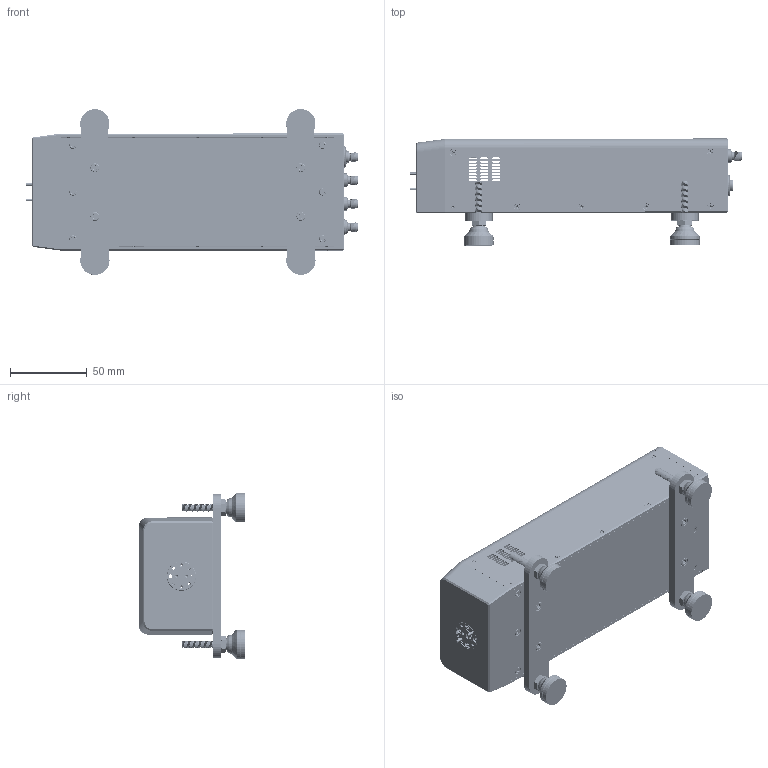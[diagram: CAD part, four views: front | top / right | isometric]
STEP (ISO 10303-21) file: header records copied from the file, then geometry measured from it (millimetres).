
FILE_DESCRIPTION (( 'STEP AP214' ), '1' );
FILE_NAME ('TO-SV-A-2.STEP', '2025-07-09T21:40:40', ( '' ), ( '' ), 'SwSTEP 2.0', 'SolidWorks 2021', '' );
FILE_SCHEMA (( 'AUTOMOTIVE_DESIGN' ));
Length unit declared in the file: inch
Products named in the file (1): TO-SV-A-2
Bounding box: 216.15 x 69.59 x 108.03 mm (x, y, z)
Volume: 234630.7 mm3; surface area: 160125.8 mm2
Topology: 100 solids, 100 shells, 5702 faces, 15302 edges, 9813 vertices
Faces by surface type: cylinder 3038, plane 1277, cone 895, bspline 472, sphere 16, torus 4
Entity records: 408716 total; most frequent: CARTESIAN_POINT 208322, ORIENTED_EDGE 30284, DIRECTION 21727, EDGE_CURVE 15142, VERTEX_POINT 9789, AXIS2_PLACEMENT_3D 8074, EDGE_LOOP 6185, DIMENSIONAL_EXPONENTS 5794
